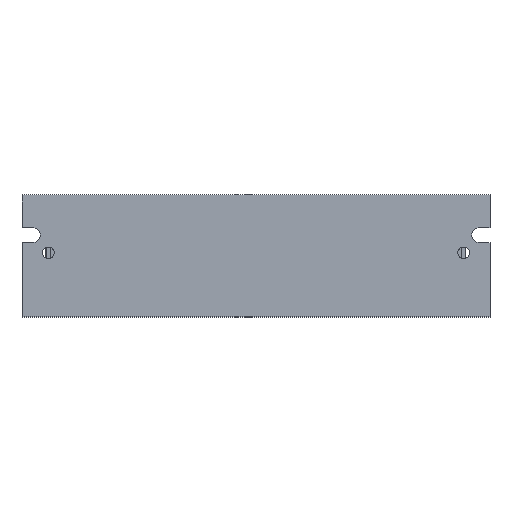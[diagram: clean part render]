
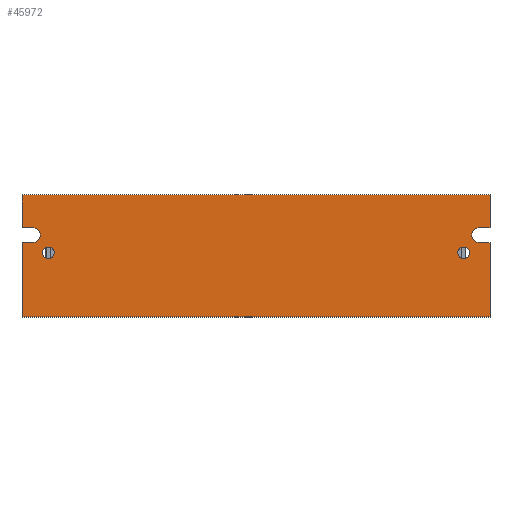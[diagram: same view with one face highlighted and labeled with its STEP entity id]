
A CAD part, top view. The second image highlights one B-rep face of the part: STEP entity #45972.
In plain terms, the highlighted planar face has unit normal (0, 0, 1).
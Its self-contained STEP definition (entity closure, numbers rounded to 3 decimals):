
#80=DIRECTION('',(0.,-1.,0.));
#81=VECTOR('',#80,10.);
#82=CARTESIAN_POINT('',(-71.,21.3,38.5));
#83=LINE('',#82,#81);
#10873=DIRECTION('',(0.,-1.,0.));
#10874=VECTOR('',#10873,22.5);
#10875=CARTESIAN_POINT('',(71.,6.8,38.5));
#10876=LINE('',#10875,#10874);
#10880=DIRECTION('',(0.,1.,0.));
#10881=VECTOR('',#10880,22.5);
#10882=CARTESIAN_POINT('',(-71.,-15.7,38.5));
#10883=LINE('',#10882,#10881);
#10887=DIRECTION('',(1.,0.,0.));
#10888=VECTOR('',#10887,3.25);
#10889=CARTESIAN_POINT('',(-71.,6.8,38.5));
#10890=LINE('',#10889,#10888);
#10894=CARTESIAN_POINT('',(-67.75,9.05,38.5));
#10895=DIRECTION('',(0.,0.,-1.));
#10896=DIRECTION('',(0.,1.,0.));
#10897=AXIS2_PLACEMENT_3D('',#10894,#10895,#10896);
#10902=DIRECTION('',(1.,0.,0.));
#10903=VECTOR('',#10902,3.25);
#10904=CARTESIAN_POINT('',(-71.,11.3,38.5));
#10905=LINE('',#10904,#10903);
#10909=DIRECTION('',(1.,0.,0.));
#10910=VECTOR('',#10909,142.);
#10911=CARTESIAN_POINT('',(-71.,21.3,38.5));
#10912=LINE('',#10911,#10910);
#10916=DIRECTION('',(-1.,0.,0.));
#10917=VECTOR('',#10916,3.25);
#10918=CARTESIAN_POINT('',(71.,11.3,38.5));
#10919=LINE('',#10918,#10917);
#10923=CARTESIAN_POINT('',(67.75,9.05,38.5));
#10924=DIRECTION('',(0.,0.,-1.));
#10925=DIRECTION('',(0.,-1.,0.));
#10926=AXIS2_PLACEMENT_3D('',#10923,#10924,#10925);
#10931=DIRECTION('',(-1.,0.,0.));
#10932=VECTOR('',#10931,3.25);
#10933=CARTESIAN_POINT('',(71.,6.8,38.5));
#10934=LINE('',#10933,#10932);
#10938=CARTESIAN_POINT('',(-63.,3.7,38.5));
#10939=DIRECTION('',(0.,0.,-1.));
#10940=DIRECTION('',(-1.,0.,0.));
#10941=AXIS2_PLACEMENT_3D('',#10938,#10939,#10940);
#10946=CARTESIAN_POINT('',(-63.,3.7,38.5));
#10947=DIRECTION('',(0.,0.,-1.));
#10948=DIRECTION('',(1.,0.,0.));
#10949=AXIS2_PLACEMENT_3D('',#10946,#10947,#10948);
#10954=CARTESIAN_POINT('',(63.,3.7,38.5));
#10955=DIRECTION('',(0.,0.,-1.));
#10956=DIRECTION('',(-1.,0.,0.));
#10957=AXIS2_PLACEMENT_3D('',#10954,#10955,#10956);
#10962=CARTESIAN_POINT('',(63.,3.7,38.5));
#10963=DIRECTION('',(0.,0.,-1.));
#10964=DIRECTION('',(1.,0.,0.));
#10965=AXIS2_PLACEMENT_3D('',#10962,#10963,#10964);
#10970=DIRECTION('',(0.,-1.,0.));
#10971=VECTOR('',#10970,10.);
#10972=CARTESIAN_POINT('',(71.,21.3,38.5));
#10973=LINE('',#10972,#10971);
#32244=DIRECTION('',(1.,0.,0.));
#32245=VECTOR('',#32244,142.);
#32246=CARTESIAN_POINT('',(-71.,-15.7,38.5));
#32247=LINE('',#32246,#32245);
#36031=CARTESIAN_POINT('',(-71.,21.3,38.5));
#36032=VERTEX_POINT('',#36031);
#36037=CARTESIAN_POINT('',(71.,21.3,38.5));
#36038=VERTEX_POINT('',#36037);
#36105=CARTESIAN_POINT('',(-71.,-15.7,38.5));
#36106=CARTESIAN_POINT('',(71.,-15.7,38.5));
#36107=VERTEX_POINT('',#36105);
#36108=VERTEX_POINT('',#36106);
#36141=CARTESIAN_POINT('',(-71.,11.3,38.5));
#36143=VERTEX_POINT('',#36141);
#36145=CARTESIAN_POINT('',(-71.,6.8,38.5));
#36147=VERTEX_POINT('',#36145);
#36149=CARTESIAN_POINT('',(-67.75,11.3,38.5));
#36150=VERTEX_POINT('',#36149);
#36151=CARTESIAN_POINT('',(-67.75,6.8,38.5));
#36152=VERTEX_POINT('',#36151);
#36157=CARTESIAN_POINT('',(71.,11.3,38.5));
#36158=VERTEX_POINT('',#36157);
#36163=CARTESIAN_POINT('',(71.,6.8,38.5));
#36164=VERTEX_POINT('',#36163);
#36165=CARTESIAN_POINT('',(-64.75,3.7,38.5));
#36166=CARTESIAN_POINT('',(-61.25,3.7,38.5));
#36167=VERTEX_POINT('',#36165);
#36168=VERTEX_POINT('',#36166);
#42437=CARTESIAN_POINT('',(67.75,6.8,38.5));
#42438=VERTEX_POINT('',#42437);
#42439=CARTESIAN_POINT('',(67.75,11.3,38.5));
#42440=VERTEX_POINT('',#42439);
#42445=CARTESIAN_POINT('',(61.25,3.7,38.5));
#42446=CARTESIAN_POINT('',(64.75,3.7,38.5));
#42447=VERTEX_POINT('',#42445);
#42448=VERTEX_POINT('',#42446);
#45932=CARTESIAN_POINT('',(-71.,0.,38.5));
#45933=DIRECTION('',(0.,0.,1.));
#45934=DIRECTION('',(0.,-1.,0.));
#45935=AXIS2_PLACEMENT_3D('',#45932,#45933,#45934);
#45936=PLANE('',#45935);
#45938=ORIENTED_EDGE('',*,*,#45937,.T.);
#45940=ORIENTED_EDGE('',*,*,#45939,.F.);
#45941=ORIENTED_EDGE('',*,*,#45904,.T.);
#45943=ORIENTED_EDGE('',*,*,#45942,.T.);
#45945=ORIENTED_EDGE('',*,*,#45944,.F.);
#45946=ORIENTED_EDGE('',*,*,#45923,.F.);
#45947=ORIENTED_EDGE('',*,*,#42760,.F.);
#45949=ORIENTED_EDGE('',*,*,#45948,.T.);
#45951=ORIENTED_EDGE('',*,*,#45950,.T.);
#45953=ORIENTED_EDGE('',*,*,#45952,.T.);
#45955=ORIENTED_EDGE('',*,*,#45954,.F.);
#45957=ORIENTED_EDGE('',*,*,#45956,.F.);
#45958=EDGE_LOOP('',(#45938,#45940,#45941,#45943,#45945,#45946,#45947,#45949,
#45951,#45953,#45955,#45957));
#45959=FACE_OUTER_BOUND('',#45958,.F.);
#45961=ORIENTED_EDGE('',*,*,#45960,.F.);
#45963=ORIENTED_EDGE('',*,*,#45962,.F.);
#45964=EDGE_LOOP('',(#45961,#45963));
#45965=FACE_BOUND('',#45964,.F.);
#45967=ORIENTED_EDGE('',*,*,#45966,.F.);
#45969=ORIENTED_EDGE('',*,*,#45968,.F.);
#45970=EDGE_LOOP('',(#45967,#45969));
#45971=FACE_BOUND('',#45970,.F.);
#10898=CIRCLE('',#10897,2.25);
#10927=CIRCLE('',#10926,2.25);
#10942=CIRCLE('',#10941,1.75);
#10950=CIRCLE('',#10949,1.75);
#10958=CIRCLE('',#10957,1.75);
#10966=CIRCLE('',#10965,1.75);
#42760=EDGE_CURVE('',#36032,#36143,#83,.T.);
#45904=EDGE_CURVE('',#36107,#36147,#10883,.T.);
#45923=EDGE_CURVE('',#36143,#36150,#10905,.T.);
#45937=EDGE_CURVE('',#36164,#36108,#10876,.T.);
#45939=EDGE_CURVE('',#36107,#36108,#32247,.T.);
#45942=EDGE_CURVE('',#36147,#36152,#10890,.T.);
#45944=EDGE_CURVE('',#36150,#36152,#10898,.T.);
#45948=EDGE_CURVE('',#36032,#36038,#10912,.T.);
#45950=EDGE_CURVE('',#36038,#36158,#10973,.T.);
#45952=EDGE_CURVE('',#36158,#42440,#10919,.T.);
#45954=EDGE_CURVE('',#42438,#42440,#10927,.T.);
#45956=EDGE_CURVE('',#36164,#42438,#10934,.T.);
#45960=EDGE_CURVE('',#36167,#36168,#10942,.T.);
#45962=EDGE_CURVE('',#36168,#36167,#10950,.T.);
#45966=EDGE_CURVE('',#42447,#42448,#10958,.T.);
#45968=EDGE_CURVE('',#42448,#42447,#10966,.T.);
#45972=ADVANCED_FACE('',(#45959,#45965,#45971),#45936,.T.);
